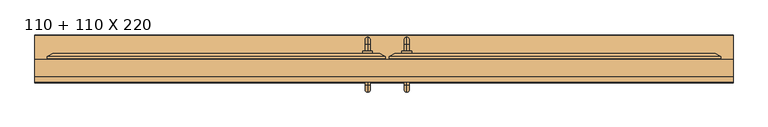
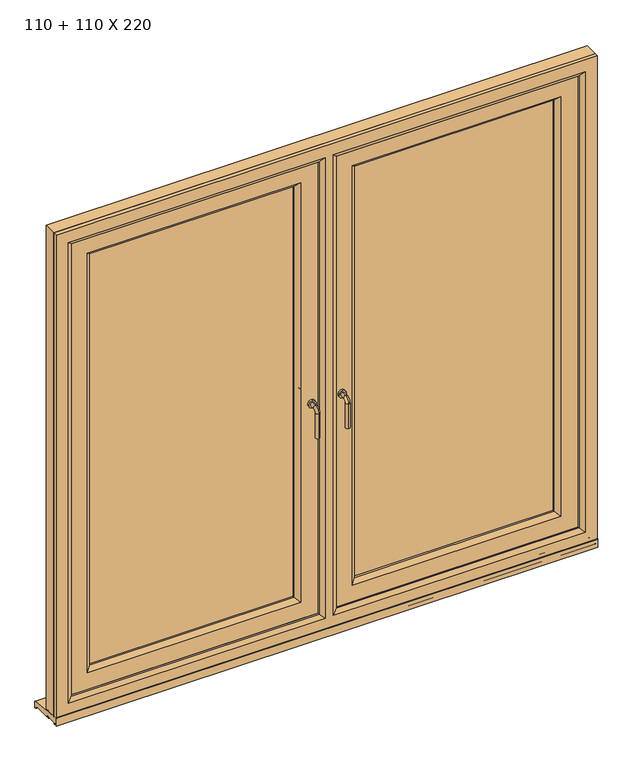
"""IFC4 building model written with IfcOpenShell, lengths in millimetres: door geometry, Door_Matrix 70_Double_Veka_Double Glazing_Outward Opening_Frame 67mm : 110 + 110 X 220."""

from ifc_helpers import new_model, si_unit, point, frame, frame_2d, origin, place, context, project, spatial, polyline, circle_curve, ellipse_curve, trimmed, segment, composite_curve, outline, extrude, faceted_brep, source, transform, mapped, element, save
from ifc_brep_helpers import plane_surface, cylinder_surface, revolved_surface, advanced_brep


def door_110_110_x_220_7d12fde9(model_context):
    return source(origin(), model_context, "Body", "SolidModel", [
        advanced_brep(
        [(71.0137838, 416.299346, 992.0), (71.0137838, 416.299346, 1008.0), (71.0137838, 436.299346, 992.0), (71.0137838, 436.299346, 1008.0), (71.0137838, 459.299346, 985.0), (71.0137838, 443.299346, 985.0), (71.0137838, 443.299346, 880.0), (71.0137838, 459.299346, 880.0)],
        [
            (0, 1, circle_curve(frame((71.0137838, 416.299346, 1000.0), z_axis=(0.0, -1.0, 0.0), x_axis=(0.0, 0.0, 1.0)), 8.0)),
            (1, 0, circle_curve(frame((71.0137838, 416.299346, 1000.0), z_axis=(0.0, -1.0, 0.0), x_axis=(0.0, 0.0, 1.0)), 8.0)),
            (0, 2),
            (2, 3, circle_curve(frame((71.0137838, 436.299346, 1000.0), z_axis=(0.0, -1.0, 0.0), x_axis=(0.0, 0.0, 1.0)), 8.0)),
            (3, 1),
            (3, 2, circle_curve(frame((71.0137838, 436.299346, 1000.0), z_axis=(0.0, -1.0, 0.0), x_axis=(0.0, 0.0, 1.0)), 8.0)),
            (4, 3, circle_curve(frame((71.0137838, 436.299346, 985.0), z_axis=(1.0, 0.0, 0.0), x_axis=(0.0, 0.0, 1.0)), 23.0)),
            (2, 5, circle_curve(frame((71.0137838, 436.299346, 985.0), z_axis=(-1.0, 0.0, 0.0), x_axis=(0.0, 0.0, 1.0)), 7.0)),
            (5, 4, circle_curve(frame((71.0137838, 451.299346, 985.0), z_axis=(0.0, 0.0, 1.0), x_axis=(0.0, 1.0, 0.0)), 8.0)),
            (4, 5, circle_curve(frame((71.0137838, 451.299346, 985.0), z_axis=(0.0, 0.0, 1.0), x_axis=(0.0, 1.0, 0.0)), 8.0)),
            (6, 7, circle_curve(frame((71.0137838, 451.299346, 880.0), z_axis=(0.0, 0.0, -1.0), x_axis=(0.0, 1.0, 0.0)), 8.0)),
            (7, 6, circle_curve(frame((71.0137838, 451.299346, 880.0), z_axis=(0.0, 0.0, -1.0), x_axis=(0.0, 1.0, 0.0)), 8.0)),
            (5, 6),
            (7, 4),
        ],
        [
            plane_surface(frame((71.0137838, 416.299346, 1000.0), z_axis=(0.0, -1.0, 0.0), x_axis=(1.0, 0.0, 0.0))),
            cylinder_surface(frame((71.0137838, 416.299346, 1000.0), z_axis=(0.0, -1.0, 0.0), x_axis=(0.0, 0.0, 1.0)), 8.0),
            revolved_surface(trimmed(ellipse_curve(frame((71.0137838, 436.299346, 1000.0), z_axis=(0.0, -1.0, 0.0), x_axis=(0.0, 0.0, 1.0)), 8.0, 8.0), [point((71.0137838, 436.299346, 992.0))], [point((71.0137838, 436.299346, 1008.0))], True, "CARTESIAN"), (71.0137838, 436.299346, 985.0), (-1.0, 0.0, 0.0)),
            revolved_surface(trimmed(ellipse_curve(frame((71.0137838, 436.299346, 1000.0), z_axis=(0.0, -1.0, 0.0), x_axis=(0.0, 0.0, 1.0)), 8.0, 8.0), [point((71.0137838, 436.299346, 1008.0))], [point((71.0137838, 436.299346, 992.0))], True, "CARTESIAN"), (71.0137838, 436.299346, 985.0), (-1.0, 0.0, 0.0)),
            plane_surface(frame((71.0137838, 451.299346, 880.0), z_axis=(0.0, 0.0, -1.0), x_axis=(1.0, 0.0, 0.0))),
            cylinder_surface(frame((71.0137838, 451.299346, 985.0), z_axis=(0.0, 0.0, 1.0), x_axis=(0.0, 1.0, 0.0)), 8.0),
        ],
        [
            (0, [[1, 2]]),
            (1, [[-1, 3, 4, 5]]),
            (1, [[-2, -5, 6, -3]]),
            (2, [[7, -4, 8, 9]]),
            (3, [[-8, -6, -7, 10]]),
            (4, [[11, 12]]),
            (5, [[-9, 13, -12, 14]]),
            (5, [[-10, -14, -11, -13]]),
        ],
    ),
        extrude(outline(composite_curve([segment(trimmed(circle_curve(frame_2d((1000.0, 71.0000189)), 15.0), [point((1000.0, 56.0000189))], [point((1000.0, 86.0000189))], False, "CARTESIAN"), True, "CONTINUOUS"), segment(trimmed(circle_curve(frame_2d((1000.0, 71.0000189)), 15.0), [point((1000.0, 86.0000189))], [point((1000.0, 56.0000189))], False, "CARTESIAN"), True, "CONTINUOUS")], self_intersect=False)), frame((0.0, 408.299346, 0.0), z_axis=(0.0, 1.0, 0.0), x_axis=(0.0, 0.0, 1.0)), (0.0, 0.0, 1.0), 8.0),
        advanced_brep(
        [(-51.0137838, 416.299346, 992.0), (-51.0137838, 416.299346, 1008.0), (-51.0137838, 436.299346, 1008.0), (-51.0137838, 436.299346, 992.0), (-51.0137838, 459.299346, 985.0), (-51.0137838, 443.299346, 985.0), (-51.0137838, 443.299346, 880.0), (-51.0137838, 459.299346, 880.0)],
        [
            (0, 1, circle_curve(frame((-51.0137838, 416.299346, 1000.0), z_axis=(0.0, -1.0, 0.0), x_axis=(0.0, 0.0, 1.0)), 8.0)),
            (1, 0, circle_curve(frame((-51.0137838, 416.299346, 1000.0), z_axis=(0.0, -1.0, 0.0), x_axis=(0.0, 0.0, 1.0)), 8.0)),
            (1, 2),
            (2, 3, circle_curve(frame((-51.0137838, 436.299346, 1000.0), z_axis=(0.0, -1.0, 0.0), x_axis=(0.0, 0.0, 1.0)), 8.0)),
            (3, 0),
            (3, 2, circle_curve(frame((-51.0137838, 436.299346, 1000.0), z_axis=(0.0, -1.0, 0.0), x_axis=(0.0, 0.0, 1.0)), 8.0)),
            (4, 5, circle_curve(frame((-51.0137838, 451.299346, 985.0), z_axis=(0.0, 0.0, 1.0), x_axis=(0.0, 1.0, 0.0)), 8.0)),
            (5, 3, circle_curve(frame((-51.0137838, 436.299346, 985.0), z_axis=(1.0, 0.0, 0.0), x_axis=(0.0, 0.0, 1.0)), 7.0)),
            (2, 4, circle_curve(frame((-51.0137838, 436.299346, 985.0), z_axis=(-1.0, 0.0, 0.0), x_axis=(0.0, 0.0, 1.0)), 23.0)),
            (5, 4, circle_curve(frame((-51.0137838, 451.299346, 985.0), z_axis=(0.0, 0.0, 1.0), x_axis=(0.0, 1.0, 0.0)), 8.0)),
            (6, 7, circle_curve(frame((-51.0137838, 451.299346, 880.0), z_axis=(0.0, 0.0, -1.0), x_axis=(0.0, 1.0, 0.0)), 8.0)),
            (7, 6, circle_curve(frame((-51.0137838, 451.299346, 880.0), z_axis=(0.0, 0.0, -1.0), x_axis=(0.0, 1.0, 0.0)), 8.0)),
            (4, 7),
            (6, 5),
        ],
        [
            plane_surface(frame((-51.0137838, 416.299346, 1000.0), z_axis=(0.0, -1.0, 0.0), x_axis=(-1.0, 0.0, 0.0))),
            cylinder_surface(frame((-51.0137838, 416.299346, 1000.0), z_axis=(0.0, -1.0, 0.0), x_axis=(0.0, 0.0, 1.0)), 8.0),
            revolved_surface(trimmed(ellipse_curve(frame((-51.0137838, 436.299346, 1000.0), z_axis=(0.0, 1.0, 0.0), x_axis=(0.0, 0.0, 1.0)), 8.0, 8.0), [point((-51.0137838, 436.299346, 992.0))], [point((-51.0137838, 436.299346, 1008.0))], True, "CARTESIAN"), (-51.0137838, 436.299346, 985.0), (1.0, 0.0, 0.0)),
            revolved_surface(trimmed(ellipse_curve(frame((-51.0137838, 436.299346, 1000.0), z_axis=(0.0, 1.0, 0.0), x_axis=(0.0, 0.0, 1.0)), 8.0, 8.0), [point((-51.0137838, 436.299346, 1008.0))], [point((-51.0137838, 436.299346, 992.0))], True, "CARTESIAN"), (-51.0137838, 436.299346, 985.0), (1.0, 0.0, 0.0)),
            plane_surface(frame((-51.0137838, 451.299346, 880.0), z_axis=(0.0, 0.0, -1.0), x_axis=(-1.0, 0.0, 0.0))),
            cylinder_surface(frame((-51.0137838, 451.299346, 985.0), z_axis=(0.0, 0.0, 1.0), x_axis=(0.0, 1.0, 0.0)), 8.0),
        ],
        [
            (0, [[1, 2]]),
            (1, [[3, 4, 5, -2]]),
            (1, [[-5, 6, -3, -1]]),
            (2, [[7, 8, -4, 9]]),
            (3, [[10, -9, -6, -8]]),
            (4, [[11, 12]]),
            (5, [[13, -11, 14, -7]]),
            (5, [[-14, -12, -13, -10]]),
        ],
    ),
        extrude(outline(composite_curve([segment(trimmed(circle_curve(frame_2d((1000.0, -51.0000189)), 15.0), [point((1000.0, -36.0000189))], [point((1000.0, -66.0000189))], False, "CARTESIAN"), True, "CONTINUOUS"), segment(trimmed(circle_curve(frame_2d((1000.0, -51.0000189)), 15.0), [point((1000.0, -66.0000189))], [point((1000.0, -36.0000189))], False, "CARTESIAN"), True, "CONTINUOUS")], self_intersect=False)), frame((0.0, 408.299346, 0.0), z_axis=(0.0, 1.0, 0.0), x_axis=(0.0, 0.0, 1.0)), (0.0, 0.0, 1.0), 8.0),
        extrude(outline(composite_curve([segment(trimmed(circle_curve(frame_2d((318.1512093, 33.816203)), 1.1487907), [point((317.0024185, 33.816203))], [point((319.3, 33.816203))], False, "CARTESIAN"), True, "CONTINUOUS"), segment(polyline([(319.3, 33.816203), (319.3, 0.0), (317.0024185, 0.0), (317.0024185, 33.816203)]), True, "CONTINUOUS")], self_intersect=False)), frame((-1090.0, 0.0, 0.0), z_axis=(1.0, 0.0, 0.0), x_axis=(0.0, 1.0, 0.0)), (0.0, 0.0, 1.0), 2180.0),
        extrude(outline(composite_curve([segment(polyline([(319.3, 29.9684543), (380.4535091, 29.9684543)]), True, "CONTINUOUS"), segment(trimmed(circle_curve(frame_2d((380.4535091, 28.1882095)), 1.7802448), [point((380.4535091, 29.9684543))], [point((382.2337539, 28.1882095))], False, "CARTESIAN"), True, "CONTINUOUS"), segment(polyline([(382.2337539, 28.1882095), (382.2337539, 26.2762118)]), True, "CONTINUOUS"), segment(trimmed(circle_curve(frame_2d((383.8166581, 26.2762118)), 1.5829042), [point((382.2337539, 26.2762118))], [point((383.6511996, 24.701979))], True, "CARTESIAN"), True, "CONTINUOUS"), segment(polyline([(383.6511996, 24.701979), (464.7623156, 16.1768571)]), True, "CONTINUOUS"), segment(trimmed(circle_curve(frame_2d((464.5008157, 13.6888513)), 2.5017105), [point((464.7623156, 16.1768571))], [point((467.0025262, 13.6888513))], False, "CARTESIAN"), True, "CONTINUOUS"), segment(polyline([(467.0025262, 13.6888513), (467.0025262, -10.3901624)]), True, "CONTINUOUS"), segment(trimmed(circle_curve(frame_2d((466.2180242, -10.3901624)), 0.7845019), [point((467.0025262, -10.3901624))], [point((466.0699977, -11.1605723))], False, "CARTESIAN"), True, "CONTINUOUS"), segment(polyline([(466.0699977, -11.1605723), (462.2238902, -10.4215811)]), True, "CONTINUOUS"), segment(trimmed(circle_curve(frame_2d((462.4810103, -9.0833898)), 1.3626689), [point((462.2238902, -10.4215811))], [point((461.3174293, -9.7925766))], False, "CARTESIAN"), True, "CONTINUOUS"), segment(polyline([(461.3174293, -9.7925766), (455.3489876, 0.0), (384.3024682, 0.0), (382.8452654, 1.4572028)]), True, "CONTINUOUS"), segment(trimmed(circle_curve(frame_2d((383.3641335, 1.9760709)), 0.7337904), [point((382.8452654, 1.4572028))], [point((383.7735167, 2.5850485))], False, "CARTESIAN"), True, "CONTINUOUS"), segment(trimmed(circle_curve(frame_2d((384.052468, 3.0000022)), 0.5000004), [point((383.7735167, 2.5850485))], [point((384.5524684, 3.0000022))], True, "CARTESIAN"), True, "CONTINUOUS"), segment(polyline([(384.5524684, 3.0000022), (384.5524684, 6.7000049), (374.8524612, 6.7000049), (374.8524612, 3.1794688)]), True, "CONTINUOUS"), segment(trimmed(circle_curve(frame_2d((375.6249307, 3.1794688)), 0.7724695), [point((374.8524612, 3.1794688))], [point((375.8915102, 2.4544554))], True, "CARTESIAN"), True, "CONTINUOUS"), segment(trimmed(circle_curve(frame_2d((376.1045415, 1.8750769)), 0.617302), [point((375.8915102, 2.4544554))], [point((376.5410399, 1.4385785))], False, "CARTESIAN"), True, "CONTINUOUS"), segment(polyline([(376.5410399, 1.4385785), (375.5024617, 0.4000003), (372.2024592, 0.4000003), (371.163881, 1.4385785)]), True, "CONTINUOUS"), segment(trimmed(circle_curve(frame_2d((371.6003795, 1.8750769)), 0.617302), [point((371.163881, 1.4385785))], [point((371.8134107, 2.4544554))], False, "CARTESIAN"), True, "CONTINUOUS"), segment(trimmed(circle_curve(frame_2d((372.0799903, 3.1794688)), 0.7724695), [point((371.8134107, 2.4544554))], [point((372.8524597, 3.1794688))], True, "CARTESIAN"), True, "CONTINUOUS"), segment(polyline([(372.8524597, 3.1794688), (372.8524597, 4.6211108)]), True, "CONTINUOUS"), segment(trimmed(circle_curve(frame_2d((372.0735665, 4.6211108)), 0.7788932), [point((372.8524597, 4.6211108))], [point((372.0735665, 5.400004))], True, "CARTESIAN"), True, "CONTINUOUS"), segment(polyline([(372.0735665, 5.400004), (332.0132707, 5.400004)]), True, "CONTINUOUS"), segment(trimmed(circle_curve(frame_2d((332.0132707, 4.5391622)), 0.8608418), [point((332.0132707, 5.400004))], [point((331.1524289, 4.5391622))], True, "CARTESIAN"), True, "CONTINUOUS"), segment(polyline([(331.1524289, 4.5391622), (331.1524289, 3.0000022)]), True, "CONTINUOUS"), segment(trimmed(circle_curve(frame_2d((331.6524293, 3.0000022)), 0.5000004), [point((331.1524289, 3.0000022))], [point((331.899745, 2.5654504))], True, "CARTESIAN"), True, "CONTINUOUS"), segment(trimmed(circle_curve(frame_2d((332.2679893, 1.918418)), 0.7444829), [point((331.899745, 2.5654504))], [point((332.7944182, 1.3919891))], False, "CARTESIAN"), True, "CONTINUOUS"), segment(polyline([(332.7944182, 1.3919891), (331.4024291, 0.0), (328.9024273, 0.0), (327.4452245, 1.4572028)]), True, "CONTINUOUS"), segment(trimmed(circle_curve(frame_2d((327.9640926, 1.9760709)), 0.7337904), [point((327.4452245, 1.4572028))], [point((328.3734758, 2.5850485))], False, "CARTESIAN"), True, "CONTINUOUS"), segment(trimmed(circle_curve(frame_2d((328.6524271, 3.0000022)), 0.5000004), [point((328.3734758, 2.5850485))], [point((329.1524275, 3.0000022))], True, "CARTESIAN"), True, "CONTINUOUS"), segment(polyline([(329.1524275, 3.0000022), (329.1524275, 5.8233683)]), True, "CONTINUOUS"), segment(trimmed(circle_curve(frame_2d((328.2757908, 5.8233683)), 0.8766367), [point((329.1524275, 5.8233683))], [point((328.2757908, 6.7000049))], True, "CARTESIAN"), True, "CONTINUOUS"), segment(polyline([(328.2757908, 6.7000049), (319.3, 6.7000049), (319.3, 29.9684543)]), True, "CONTINUOUS")], self_intersect=False)), frame((-1090.0, 0.0, 0.0), z_axis=(1.0, 0.0, 0.0), x_axis=(0.0, 1.0, 0.0)), (0.0, 0.0, 1.0), 2180.0),
        advanced_brep(
        [(71.0137838, 330.3000993, 992.0), (71.0137838, 330.3000993, 1008.0), (71.0137838, 310.3000993, 1008.0), (71.0137838, 310.3000993, 992.0), (71.0137838, 287.3000993, 985.0), (71.0137838, 303.3000993, 985.0), (71.0137838, 303.3000993, 880.0), (71.0137838, 287.3000993, 880.0)],
        [
            (0, 1, circle_curve(frame((71.0137838, 330.3000993, 1000.0), z_axis=(0.0, 1.0, 0.0), x_axis=(0.0, 0.0, 1.0)), 8.0)),
            (1, 0, circle_curve(frame((71.0137838, 330.3000993, 1000.0), z_axis=(0.0, 1.0, 0.0), x_axis=(0.0, 0.0, 1.0)), 8.0)),
            (1, 2),
            (2, 3, circle_curve(frame((71.0137838, 310.3000993, 1000.0), z_axis=(0.0, 1.0, 0.0), x_axis=(0.0, 0.0, 1.0)), 8.0)),
            (3, 0),
            (3, 2, circle_curve(frame((71.0137838, 310.3000993, 1000.0), z_axis=(0.0, 1.0, 0.0), x_axis=(0.0, 0.0, 1.0)), 8.0)),
            (4, 5, circle_curve(frame((71.0137838, 295.3000993, 985.0), z_axis=(0.0, 0.0, 1.0), x_axis=(0.0, -1.0, 0.0)), 8.0)),
            (5, 3, circle_curve(frame((71.0137838, 310.3000993, 985.0), z_axis=(-1.0, 0.0, 0.0), x_axis=(0.0, 0.0, 1.0)), 7.0)),
            (2, 4, circle_curve(frame((71.0137838, 310.3000993, 985.0), z_axis=(1.0, 0.0, 0.0), x_axis=(0.0, 0.0, 1.0)), 23.0)),
            (5, 4, circle_curve(frame((71.0137838, 295.3000993, 985.0), z_axis=(0.0, 0.0, 1.0), x_axis=(0.0, -1.0, 0.0)), 8.0)),
            (6, 7, circle_curve(frame((71.0137838, 295.3000993, 880.0), z_axis=(0.0, 0.0, -1.0), x_axis=(0.0, -1.0, 0.0)), 8.0)),
            (7, 6, circle_curve(frame((71.0137838, 295.3000993, 880.0), z_axis=(0.0, 0.0, -1.0), x_axis=(0.0, -1.0, 0.0)), 8.0)),
            (4, 7),
            (6, 5),
        ],
        [
            plane_surface(frame((71.0137838, 330.3000993, 1000.0), z_axis=(0.0, 1.0, 0.0), x_axis=(1.0, 0.0, 0.0))),
            cylinder_surface(frame((71.0137838, 330.3000993, 1000.0), z_axis=(0.0, 1.0, 0.0), x_axis=(0.0, 0.0, 1.0)), 8.0),
            revolved_surface(trimmed(ellipse_curve(frame((71.0137838, 310.3000993, 1000.0), z_axis=(0.0, -1.0, 0.0), x_axis=(0.0, 0.0, 1.0)), 8.0, 8.0), [point((71.0137838, 310.3000993, 992.0))], [point((71.0137838, 310.3000993, 1008.0))], True, "CARTESIAN"), (71.0137838, 310.3000993, 985.0), (-1.0, 0.0, 0.0)),
            revolved_surface(trimmed(ellipse_curve(frame((71.0137838, 310.3000993, 1000.0), z_axis=(0.0, -1.0, 0.0), x_axis=(0.0, 0.0, 1.0)), 8.0, 8.0), [point((71.0137838, 310.3000993, 1008.0))], [point((71.0137838, 310.3000993, 992.0))], True, "CARTESIAN"), (71.0137838, 310.3000993, 985.0), (-1.0, 0.0, 0.0)),
            plane_surface(frame((71.0137838, 295.3000993, 880.0), z_axis=(0.0, 0.0, -1.0), x_axis=(1.0, 0.0, 0.0))),
            cylinder_surface(frame((71.0137838, 295.3000993, 985.0), z_axis=(0.0, 0.0, 1.0), x_axis=(0.0, -1.0, 0.0)), 8.0),
        ],
        [
            (0, [[1, 2]]),
            (1, [[3, 4, 5, -2]]),
            (1, [[-5, 6, -3, -1]]),
            (2, [[7, 8, -4, 9]]),
            (3, [[10, -9, -6, -8]]),
            (4, [[11, 12]]),
            (5, [[13, -11, 14, -7]]),
            (5, [[-14, -12, -13, -10]]),
        ],
    ),
        extrude(outline(composite_curve([segment(trimmed(circle_curve(frame_2d((1000.0, 71.0000189)), 15.0), [point((1000.0, 56.0000189))], [point((1000.0, 86.0000189))], False, "CARTESIAN"), True, "CONTINUOUS"), segment(trimmed(circle_curve(frame_2d((1000.0, 71.0000189)), 15.0), [point((1000.0, 86.0000189))], [point((1000.0, 56.0000189))], False, "CARTESIAN"), True, "CONTINUOUS")], self_intersect=False)), frame((0.0, 330.3000993, 0.0), z_axis=(0.0, 1.0, 0.0), x_axis=(0.0, 0.0, 1.0)), (0.0, 0.0, 1.0), 8.0),
        advanced_brep(
        [(-51.0137838, 330.3000993, 992.0), (-51.0137838, 330.3000993, 1008.0), (-51.0137838, 310.3000993, 992.0), (-51.0137838, 310.3000993, 1008.0), (-51.0137838, 287.3000993, 985.0), (-51.0137838, 303.3000993, 985.0), (-51.0137838, 303.3000993, 880.0), (-51.0137838, 287.3000993, 880.0)],
        [
            (0, 1, circle_curve(frame((-51.0137838, 330.3000993, 1000.0), z_axis=(0.0, 1.0, 0.0), x_axis=(0.0, 0.0, 1.0)), 8.0)),
            (1, 0, circle_curve(frame((-51.0137838, 330.3000993, 1000.0), z_axis=(0.0, 1.0, 0.0), x_axis=(0.0, 0.0, 1.0)), 8.0)),
            (0, 2),
            (2, 3, circle_curve(frame((-51.0137838, 310.3000993, 1000.0), z_axis=(0.0, 1.0, 0.0), x_axis=(0.0, 0.0, 1.0)), 8.0)),
            (3, 1),
            (3, 2, circle_curve(frame((-51.0137838, 310.3000993, 1000.0), z_axis=(0.0, 1.0, 0.0), x_axis=(0.0, 0.0, 1.0)), 8.0)),
            (4, 3, circle_curve(frame((-51.0137838, 310.3000993, 985.0), z_axis=(-1.0, 0.0, 0.0), x_axis=(0.0, 0.0, 1.0)), 23.0)),
            (2, 5, circle_curve(frame((-51.0137838, 310.3000993, 985.0), z_axis=(1.0, 0.0, 0.0), x_axis=(0.0, 0.0, 1.0)), 7.0)),
            (5, 4, circle_curve(frame((-51.0137838, 295.3000993, 985.0), z_axis=(0.0, 0.0, 1.0), x_axis=(0.0, -1.0, 0.0)), 8.0)),
            (4, 5, circle_curve(frame((-51.0137838, 295.3000993, 985.0), z_axis=(0.0, 0.0, 1.0), x_axis=(0.0, -1.0, 0.0)), 8.0)),
            (6, 7, circle_curve(frame((-51.0137838, 295.3000993, 880.0), z_axis=(0.0, 0.0, -1.0), x_axis=(0.0, -1.0, 0.0)), 8.0)),
            (7, 6, circle_curve(frame((-51.0137838, 295.3000993, 880.0), z_axis=(0.0, 0.0, -1.0), x_axis=(0.0, -1.0, 0.0)), 8.0)),
            (5, 6),
            (7, 4),
        ],
        [
            plane_surface(frame((-51.0137838, 330.3000993, 1000.0), z_axis=(0.0, 1.0, 0.0), x_axis=(-1.0, 0.0, 0.0))),
            cylinder_surface(frame((-51.0137838, 330.3000993, 1000.0), z_axis=(0.0, 1.0, 0.0), x_axis=(0.0, 0.0, 1.0)), 8.0),
            revolved_surface(trimmed(ellipse_curve(frame((-51.0137838, 310.3000993, 1000.0), z_axis=(0.0, 1.0, 0.0), x_axis=(0.0, 0.0, 1.0)), 8.0, 8.0), [point((-51.0137838, 310.3000993, 992.0))], [point((-51.0137838, 310.3000993, 1008.0))], True, "CARTESIAN"), (-51.0137838, 310.3000993, 985.0), (1.0, 0.0, 0.0)),
            revolved_surface(trimmed(ellipse_curve(frame((-51.0137838, 310.3000993, 1000.0), z_axis=(0.0, 1.0, 0.0), x_axis=(0.0, 0.0, 1.0)), 8.0, 8.0), [point((-51.0137838, 310.3000993, 1008.0))], [point((-51.0137838, 310.3000993, 992.0))], True, "CARTESIAN"), (-51.0137838, 310.3000993, 985.0), (1.0, 0.0, 0.0)),
            plane_surface(frame((-51.0137838, 295.3000993, 880.0), z_axis=(0.0, 0.0, -1.0), x_axis=(-1.0, 0.0, 0.0))),
            cylinder_surface(frame((-51.0137838, 295.3000993, 985.0), z_axis=(0.0, 0.0, 1.0), x_axis=(0.0, -1.0, 0.0)), 8.0),
        ],
        [
            (0, [[1, 2]]),
            (1, [[-1, 3, 4, 5]]),
            (1, [[-2, -5, 6, -3]]),
            (2, [[7, -4, 8, 9]]),
            (3, [[-8, -6, -7, 10]]),
            (4, [[11, 12]]),
            (5, [[-9, 13, -12, 14]]),
            (5, [[-10, -14, -11, -13]]),
        ],
    ),
        extrude(outline(composite_curve([segment(trimmed(circle_curve(frame_2d((1000.0, -51.0000189)), 15.0), [point((1000.0, -36.0000189))], [point((1000.0, -66.0000189))], False, "CARTESIAN"), True, "CONTINUOUS"), segment(trimmed(circle_curve(frame_2d((1000.0, -51.0000189)), 15.0), [point((1000.0, -66.0000189))], [point((1000.0, -36.0000189))], False, "CARTESIAN"), True, "CONTINUOUS")], self_intersect=False)), frame((0.0, 330.3000993, 0.0), z_axis=(0.0, 1.0, 0.0), x_axis=(0.0, 0.0, 1.0)), (0.0, 0.0, 1.0), 8.0),
        faceted_brep([(-16.0118251, 338.2991455, 2031.0118251), (-16.0118251, 338.2991455, 89.0118251), (-16.0118251, 353.8001213, 89.0118251), (-16.0118251, 353.8001213, 2031.0118251), (-1031.0118251, 338.2991455, 89.0118251), (-1031.0118251, 353.8001213, 89.0118251), (-1031.0118251, 338.2991455, 2031.0118251), (-1031.0118251, 353.8001213, 2031.0118251), (-91.0085876, 353.8001213, 164.0085876), (-91.0085876, 353.8001213, 1956.0150626), (-956.0150626, 353.8001213, 1956.0150626), (-956.0150626, 353.8001213, 164.0085876), (-91.0085876, 348.7759158, 164.0085876), (-91.0085876, 348.7759158, 1956.0150626), (-956.0150626, 348.7759158, 164.0085876), (-956.0150626, 348.7759158, 1956.0150626), (-93.5357965, 338.2991455, 1953.4878537), (-93.5357965, 338.2991455, 166.5357965), (-953.4878537, 338.2991455, 166.5357965), (-953.4878537, 338.2991455, 1953.4878537), (-111.034598, 352.9838124, 1935.9890521), (-111.034598, 352.9838124, 184.034598), (-111.034598, 361.3179487, 1935.9890521), (-111.034598, 361.3179487, 184.034598), (-103.5506206, 361.3179487, 176.5506206), (-103.5506206, 361.3179487, 1943.4730296), (-935.9890521, 352.9838124, 184.034598), (-935.9890521, 361.3179487, 184.034598), (-943.4730296, 361.3179487, 176.5506206), (-935.9890521, 352.9838124, 1935.9890521), (-935.9890521, 361.3179487, 1935.9890521), (-943.4730296, 361.3179487, 1943.4730296)], [[[0, 1, 2, 3]], [[1, 4, 5, 2]], [[4, 6, 7, 5]], [[6, 0, 3, 7]], [[3, 2, 5, 7], [8, 9, 10, 11]], [[9, 8, 12, 13]], [[8, 11, 14, 12]], [[11, 10, 15, 14]], [[1, 0, 6, 4], [16, 17, 18, 19]], [[10, 9, 13, 15]], [[20, 21, 17, 16]], [[22, 23, 21, 20]], [[13, 12, 24, 25]], [[21, 26, 18, 17]], [[23, 27, 26, 21]], [[12, 14, 28, 24]], [[26, 29, 19, 18]], [[27, 30, 29, 26]], [[14, 15, 31, 28]], [[29, 20, 16, 19]], [[30, 22, 20, 29]], [[25, 24, 28, 31], [23, 22, 30, 27]], [[15, 13, 25, 31]]]),
        extrude(outline(polyline([(-950.9872592, 361.3254673), (-950.9872592, 389.3372512), (-96.036391, 389.3372512), (-96.036391, 361.3254673), (-950.9872592, 361.3254673)])), frame((0.0, 0.0, 169.0118251), z_axis=(0.0, 0.0, 1.0), x_axis=(1.0, 0.0, 0.0)), (0.0, 0.0, 1.0), 1782.0),
        extrude(outline(polyline([(174.7833621, -101.7833621), (1945.2402881, -101.7833621), (1945.2402881, -945.2402881), (174.7833621, -945.2402881), (174.7833621, -101.7833621)]), holes=[polyline([(1936.2235734, -110.8000768), (183.8000768, -110.8000768), (183.8000768, -936.2235734), (1936.2235734, -936.2235734), (1936.2235734, -110.8000768)])]), frame((0.0, 389.3100318, 0.0), z_axis=(0.0, 1.0, 0.0), x_axis=(0.0, 0.0, 1.0)), (0.0, 0.0, 1.0), 3.4991592),
        extrude(outline(polyline([(69.7530278, 3.2469722), (2050.2706224, 3.2469722), (2050.2706224, -1050.2706224), (69.7530278, -1050.2706224), (69.7530278, 3.2469722)]), holes=[polyline([(2041.2539077, -5.7697425), (78.7697425, -5.7697425), (78.7697425, -1041.2539077), (2041.2539077, -1041.2539077), (2041.2539077, -5.7697425)])]), frame((0.0, 389.3101868, 0.0), z_axis=(0.0, 1.0, 0.0), x_axis=(0.0, 0.0, 1.0)), (0.0, 0.0, 1.0), 3.4991592),
        extrude(outline(polyline([(87.2656421, -14.2656421), (2032.7580081, -14.2656421), (2032.7580081, -1032.7580081), (87.2656421, -1032.7580081), (87.2656421, -14.2656421)]), holes=[polyline([(2023.7412934, -23.2823568), (96.2823568, -23.2823568), (96.2823568, -1023.7412934), (2023.7412934, -1023.7412934), (2023.7412934, -23.2823568)])]), frame((0.0, 334.8140626, 0.0), z_axis=(0.0, 1.0, 0.0), x_axis=(0.0, 0.0, 1.0)), (0.0, 0.0, 1.0), 3.4991592),
        faceted_brep([(3.9898195, 398.1974346, 2051.0134697), (3.9898195, 398.1974346, 69.0101805), (-13.5094049, 408.3007268, 86.5094049), (-13.5094049, 408.3007268, 2033.5142453), (3.9898195, 392.8013505, 2051.0134697), (3.9898195, 392.8013505, 69.0101805), (-16.0115015, 353.8001213, 2031.0121487), (-16.0115015, 353.8001213, 89.0115015), (-16.0115015, 392.8013505, 89.0115015), (-16.0115015, 392.8013505, 2031.0121487), (-1051.0134697, 398.1974346, 69.0101805), (-1033.5142453, 408.3007268, 86.5094049), (-1051.0134697, 392.8013505, 69.0101805), (-1031.0121487, 353.8001213, 89.0115015), (-1031.0121487, 392.8013505, 89.0115015), (-1051.0134697, 398.1974346, 2051.0134697), (-1033.5142453, 408.3007268, 2033.5142453), (-1051.0134697, 392.8013505, 2051.0134697), (-1031.0121487, 353.8001213, 2031.0121487), (-1031.0121487, 392.8013505, 2031.0121487), (-93.5577973, 408.3007268, 166.5577973), (-93.5577973, 408.3007268, 1953.4658528), (-953.4658528, 408.3007268, 1953.4658528), (-953.4658528, 408.3007268, 166.5577973), (-90.9982833, 392.8012564, 1956.0253669), (-90.9982833, 392.8012564, 163.9982833), (-90.9982833, 353.8001213, 163.9982833), (-90.9982833, 353.8001213, 1956.0253669), (-956.0253669, 392.8012564, 163.9982833), (-956.0253669, 353.8001213, 163.9982833), (-956.0253669, 392.8012564, 1956.0253669), (-956.0253669, 353.8001213, 1956.0253669), (-110.9996043, 398.2310558, 1936.0240459), (-110.9996043, 398.2310558, 183.9996043), (-110.9996043, 392.8012564, 183.9996043), (-110.9996043, 392.8012564, 1936.0240459), (-936.0240459, 398.2310558, 183.9996043), (-936.0240459, 392.8012564, 183.9996043), (-936.0240459, 398.2310558, 1936.0240459), (-936.0240459, 392.8012564, 1936.0240459)], [[[0, 1, 2, 3]], [[4, 5, 1, 0]], [[6, 7, 8, 9]], [[1, 10, 11, 2]], [[5, 12, 10, 1]], [[7, 13, 14, 8]], [[10, 15, 16, 11]], [[12, 17, 15, 10]], [[13, 18, 19, 14]], [[15, 0, 3, 16]], [[17, 4, 0, 15]], [[5, 4, 17, 12], [9, 8, 14, 19]], [[18, 6, 9, 19]], [[3, 2, 11, 16], [20, 21, 22, 23]], [[24, 25, 26, 27]], [[25, 28, 29, 26]], [[28, 30, 31, 29]], [[7, 6, 18, 13], [27, 26, 29, 31]], [[30, 24, 27, 31]], [[32, 33, 34, 35]], [[33, 36, 37, 34]], [[36, 38, 39, 37]], [[38, 32, 35, 39]], [[21, 20, 33, 32]], [[20, 23, 36, 33]], [[23, 22, 38, 36]], [[25, 24, 30, 28], [35, 34, 37, 39]], [[22, 21, 32, 38]]]),
        faceted_brep([(1031.0118251, 338.2991455, 2031.0118251), (1031.0118251, 338.2991455, 89.0118251), (1031.0118251, 353.8001213, 89.0118251), (1031.0118251, 353.8001213, 2031.0118251), (36.0118251, 338.2991455, 89.0118251), (36.0118251, 353.8001213, 89.0118251), (36.0118251, 338.2991455, 2031.0118251), (36.0118251, 353.8001213, 2031.0118251), (956.0150626, 353.8001213, 164.0085876), (956.0150626, 353.8001213, 1956.0150626), (111.0085876, 353.8001213, 1956.0150626), (111.0085876, 353.8001213, 164.0085876), (956.0150626, 348.7759158, 164.0085876), (956.0150626, 348.7759158, 1956.0150626), (111.0085876, 348.7759158, 164.0085876), (111.0085876, 348.7759158, 1956.0150626), (953.4878537, 338.2991455, 1953.4878537), (953.4878537, 338.2991455, 166.5357965), (113.5357965, 338.2991455, 166.5357965), (113.5357965, 338.2991455, 1953.4878537), (935.9890521, 352.9838124, 1935.9890521), (935.9890521, 352.9838124, 184.034598), (935.9890521, 361.3179487, 1935.9890521), (935.9890521, 361.3179487, 184.034598), (943.4730296, 361.3179487, 176.5506206), (943.4730296, 361.3179487, 1943.4730296), (131.034598, 352.9838124, 184.034598), (131.034598, 361.3179487, 184.034598), (123.5506206, 361.3179487, 176.5506206), (131.034598, 352.9838124, 1935.9890521), (131.034598, 361.3179487, 1935.9890521), (123.5506206, 361.3179487, 1943.4730296)], [[[0, 1, 2, 3]], [[1, 4, 5, 2]], [[4, 6, 7, 5]], [[6, 0, 3, 7]], [[3, 2, 5, 7], [8, 9, 10, 11]], [[9, 8, 12, 13]], [[8, 11, 14, 12]], [[11, 10, 15, 14]], [[1, 0, 6, 4], [16, 17, 18, 19]], [[10, 9, 13, 15]], [[20, 21, 17, 16]], [[22, 23, 21, 20]], [[13, 12, 24, 25]], [[21, 26, 18, 17]], [[23, 27, 26, 21]], [[12, 14, 28, 24]], [[26, 29, 19, 18]], [[27, 30, 29, 26]], [[14, 15, 31, 28]], [[29, 20, 16, 19]], [[30, 22, 20, 29]], [[25, 24, 28, 31], [23, 22, 30, 27]], [[15, 13, 25, 31]]]),
        extrude(outline(polyline([(116.036391, 361.3254673), (116.036391, 389.3372512), (950.9872592, 389.3372512), (950.9872592, 361.3254673), (116.036391, 361.3254673)])), frame((0.0, 0.0, 169.0118251), z_axis=(0.0, 0.0, 1.0), x_axis=(1.0, 0.0, 0.0)), (0.0, 0.0, 1.0), 1782.0),
        extrude(outline(polyline([(174.7833621, 945.2402881), (1945.2402881, 945.2402881), (1945.2402881, 121.7833621), (174.7833621, 121.7833621), (174.7833621, 945.2402881)]), holes=[polyline([(1936.2235734, 936.2235734), (183.8000768, 936.2235734), (183.8000768, 130.8000768), (1936.2235734, 130.8000768), (1936.2235734, 936.2235734)])]), frame((0.0, 389.3100318, 0.0), z_axis=(0.0, 1.0, 0.0), x_axis=(0.0, 0.0, 1.0)), (0.0, 0.0, 1.0), 3.4991592),
        extrude(outline(polyline([(69.7530278, 1050.2706224), (2050.2706224, 1050.2706224), (2050.2706224, 16.7530278), (69.7530278, 16.7530278), (69.7530278, 1050.2706224)]), holes=[polyline([(2041.2539077, 1041.2539077), (78.7697425, 1041.2539077), (78.7697425, 25.7697425), (2041.2539077, 25.7697425), (2041.2539077, 1041.2539077)])]), frame((0.0, 389.3101868, 0.0), z_axis=(0.0, 1.0, 0.0), x_axis=(0.0, 0.0, 1.0)), (0.0, 0.0, 1.0), 3.4991592),
        extrude(outline(polyline([(87.2656421, 1032.7580081), (2032.7580081, 1032.7580081), (2032.7580081, 34.2656421), (87.2656421, 34.2656421), (87.2656421, 1032.7580081)]), holes=[polyline([(2023.7412934, 1023.7412934), (96.2823568, 1023.7412934), (96.2823568, 43.2823568), (2023.7412934, 43.2823568), (2023.7412934, 1023.7412934)])]), frame((0.0, 334.8140626, 0.0), z_axis=(0.0, 1.0, 0.0), x_axis=(0.0, 0.0, 1.0)), (0.0, 0.0, 1.0), 3.4991592),
        faceted_brep([(1051.0134697, 398.1974346, 2051.0134697), (1051.0134697, 398.1974346, 69.0101805), (1033.5142453, 408.3007268, 86.5094049), (1033.5142453, 408.3007268, 2033.5142453), (1051.0134697, 392.8013505, 2051.0134697), (1051.0134697, 392.8013505, 69.0101805), (1031.0121487, 353.8001213, 2031.0121487), (1031.0121487, 353.8001213, 89.0115015), (1031.0121487, 392.8013505, 89.0115015), (1031.0121487, 392.8013505, 2031.0121487), (16.0101805, 398.1974346, 69.0101805), (33.5094049, 408.3007268, 86.5094049), (16.0101805, 392.8013505, 69.0101805), (36.0115015, 353.8001213, 89.0115015), (36.0115015, 392.8013505, 89.0115015), (16.0101805, 398.1974346, 2051.0134697), (33.5094049, 408.3007268, 2033.5142453), (16.0101805, 392.8013505, 2051.0134697), (36.0115015, 353.8001213, 2031.0121487), (36.0115015, 392.8013505, 2031.0121487), (953.4658528, 408.3007268, 166.5577973), (953.4658528, 408.3007268, 1953.4658528), (113.5577973, 408.3007268, 1953.4658528), (113.5577973, 408.3007268, 166.5577973), (956.0253669, 392.8012564, 1956.0253669), (956.0253669, 392.8012564, 163.9982833), (956.0253669, 353.8001213, 163.9982833), (956.0253669, 353.8001213, 1956.0253669), (110.9982833, 392.8012564, 163.9982833), (110.9982833, 353.8001213, 163.9982833), (110.9982833, 392.8012564, 1956.0253669), (110.9982833, 353.8001213, 1956.0253669), (936.0240459, 398.2310558, 1936.0240459), (936.0240459, 398.2310558, 183.9996043), (936.0240459, 392.8012564, 183.9996043), (936.0240459, 392.8012564, 1936.0240459), (130.9996043, 398.2310558, 183.9996043), (130.9996043, 392.8012564, 183.9996043), (130.9996043, 398.2310558, 1936.0240459), (130.9996043, 392.8012564, 1936.0240459)], [[[0, 1, 2, 3]], [[4, 5, 1, 0]], [[6, 7, 8, 9]], [[1, 10, 11, 2]], [[5, 12, 10, 1]], [[7, 13, 14, 8]], [[10, 15, 16, 11]], [[12, 17, 15, 10]], [[13, 18, 19, 14]], [[15, 0, 3, 16]], [[17, 4, 0, 15]], [[5, 4, 17, 12], [9, 8, 14, 19]], [[18, 6, 9, 19]], [[3, 2, 11, 16], [20, 21, 22, 23]], [[24, 25, 26, 27]], [[25, 28, 29, 26]], [[28, 30, 31, 29]], [[7, 6, 18, 13], [27, 26, 29, 31]], [[30, 24, 27, 31]], [[32, 33, 34, 35]], [[33, 36, 37, 34]], [[36, 38, 39, 37]], [[38, 32, 35, 39]], [[21, 20, 33, 32]], [[20, 23, 36, 33]], [[23, 22, 38, 36]], [[25, 24, 30, 28], [35, 34, 37, 39]], [[22, 21, 32, 38]]]),
        faceted_brep([(20.9983546, 334.7970422, 2084.9624465), (20.9983546, 338.06822, 2084.9624465), (-1.0007487, 338.06822, 2084.9624465), (-1.0007487, 334.7970422, 2084.9624465), (-1.0007487, 334.7970422, 35.0), (-1.0007487, 338.06822, 35.0), (20.9983546, 338.06822, 35.0), (20.9983546, 334.7970422, 35.0), (1090.0, 319.2980769, 30.0), (1090.0, 319.2980769, 2090.0), (-1090.0, 319.2980769, 2090.0), (-1090.0, 319.2980769, 30.0), (-6.5000347, 319.2980769, 2040.6351244), (-6.5000347, 319.2980769, 79.3648756), (-1040.6340004, 319.2980769, 79.3659996), (-1040.6340004, 319.2980769, 2040.6340004), (26.4976406, 319.2980769, 79.3648756), (26.4976406, 319.2980769, 2040.6351244), (1040.6340004, 319.2980769, 2040.6340004), (1040.6340004, 319.2980769, 79.3659996), (43.9982232, 329.4011467, 96.9998025), (43.998078, 329.4010629, 2023.0000053), (43.998078, 334.7970422, 96.9999947), (43.998078, 334.7970422, 2023.0000053), (1090.0, 334.7970422, 2090.0), (1090.0, 334.7970422, 30.0), (-1090.0, 334.7970422, 30.0), (-1090.0, 334.7970422, 2090.0), (1023.0000053, 334.7970422, 96.9999947), (1023.0000053, 334.7970422, 2023.0000053), (-1023.0000053, 334.7970422, 96.9999947), (-24.0004721, 334.7970422, 96.9999947), (-24.0004721, 334.7970422, 2023.0000053), (-1023.0000053, 334.7970422, 2023.0000053), (-24.0004721, 329.4010629, 96.9999947), (-24.0004721, 329.4010629, 2023.0000053), (1023.0000053, 329.4012568, 2023.0000053), (1023.0000053, 329.4012568, 96.9999947), (-1023.0000053, 329.4012568, 96.9999947), (-1023.0000053, 329.4012568, 2023.0000053)], [[[0, 1, 2, 3]], [[4, 5, 6, 7]], [[8, 9, 10, 11], [12, 13, 14, 15], [16, 17, 18, 19]], [[17, 16, 20, 21]], [[21, 20, 22, 23]], [[24, 25, 26, 27], [0, 3, 4, 7], [23, 22, 28, 29], [30, 31, 32, 33]], [[1, 0, 7, 6]], [[2, 1, 6, 5]], [[4, 3, 2, 5]], [[32, 31, 34, 35]], [[13, 12, 35, 34]], [[36, 29, 28, 37]], [[36, 37, 19, 18]], [[24, 9, 8, 25]], [[37, 28, 22, 20]], [[30, 38, 34, 31]], [[19, 37, 20, 16]], [[38, 14, 13, 34]], [[25, 8, 11, 26]], [[38, 30, 33, 39]], [[14, 38, 39, 15]], [[26, 11, 10, 27]], [[29, 36, 21, 23]], [[39, 33, 32, 35]], [[36, 18, 17, 21]], [[15, 39, 35, 12]], [[9, 24, 27, 10]]]),
        faceted_brep([(1090.0, 389.2961568, 2090.0), (1090.0, 389.2961568, 30.0), (-1090.0, 389.2961568, 30.0), (-1090.0, 389.2961568, 2090.0), (22.5812807, 389.2961568, 2042.9916188), (22.5812807, 389.2961568, 77.0083812), (1042.9916188, 389.2961568, 77.0083812), (1042.9916188, 389.2961568, 2042.9916188), (-2.4438029, 389.2961568, 77.0083812), (-2.4438029, 389.2961568, 2042.9916188), (-1042.9916188, 389.2961568, 2042.9916188), (-1042.9916188, 389.2961568, 77.0083812), (-2.4438029, 338.0667351, 77.0083812), (-2.4438029, 338.0667351, 2042.9916188), (22.5812807, 338.0667351, 77.0083812), (22.5812807, 338.0667351, 2042.9916188), (1042.9916188, 334.8328407, 2042.9916188), (1042.9916188, 334.8328407, 77.0083812), (1090.0, 334.8328407, 2090.0), (1090.0, 334.8328407, 30.0), (-1042.9916188, 334.8328407, 77.0083812), (-1090.0, 334.8328407, 30.0), (-1042.9916188, 334.8328407, 2042.9916188), (-1090.0, 334.8328407, 2090.0)], [[[0, 1, 2, 3], [4, 5, 6, 7], [8, 9, 10, 11]], [[9, 8, 12, 13]], [[13, 12, 14, 15]], [[5, 4, 15, 14]], [[16, 7, 6, 17]], [[0, 18, 19, 1]], [[17, 6, 5, 14, 12, 8, 11, 20]], [[1, 19, 21, 2]], [[20, 11, 10, 22]], [[2, 21, 23, 3]], [[7, 16, 22, 10, 9, 13, 15, 4]], [[19, 18, 23, 21], [16, 17, 20, 22]], [[18, 0, 3, 23]]]),
    ])


if __name__ == "__main__":
    model = new_model("IFC4")
    model_context = context("Model", 3, world=origin())
    ifc_project = project(units=[si_unit("LENGTHUNIT", "METRE", prefix="MILLI")], contexts=[model_context])
    site = spatial("IfcSite", under=ifc_project)
    building = spatial("IfcBuilding", under=site)
    placement = place(None, origin())
    door_110_110_x_220_shape = door_110_110_x_220_7d12fde9(model_context)
    element("IfcDoor", 1, ObjectType="Door_Matrix 70_Double_Veka_Double Glazing_Outward Opening_Frame 67mm : 110 + 110 X 220", at=placement, inside=building, context=model_context, shape_type="MappedRepresentation", body=[
        mapped(door_110_110_x_220_shape, transform((0.0, 0.0, 0.0), x_axis=(1.0, 0.0, 0.0), y_axis=(0.0, 1.0, 0.0), z_axis=(0.0, 0.0, 1.0))),
    ])
    save(model, "model.ifc")
